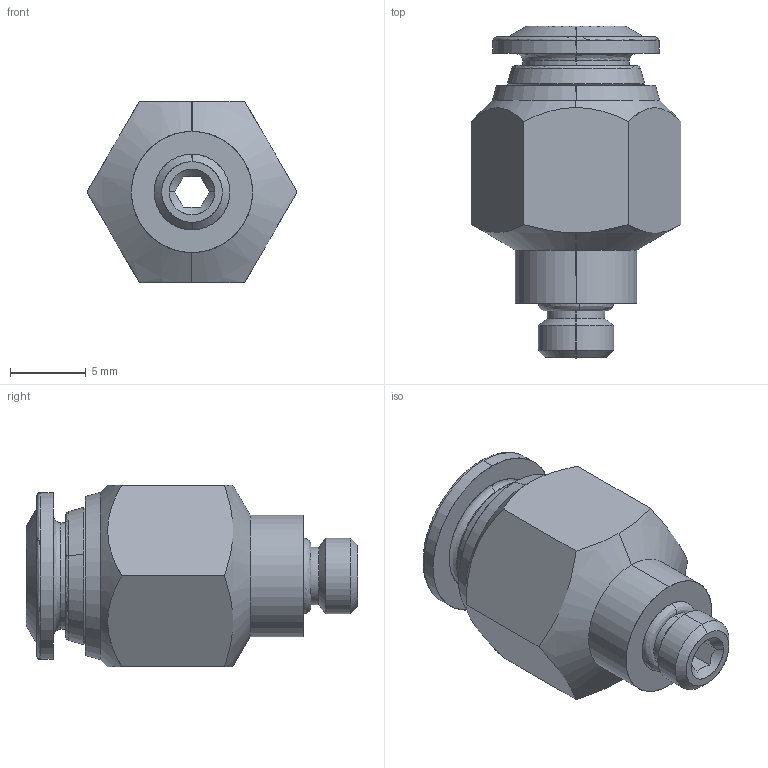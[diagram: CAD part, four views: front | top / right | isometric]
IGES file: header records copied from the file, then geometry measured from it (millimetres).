
Start section: SolidWorks IGES file using analytic representation for surfaces
Global section: file name: K:\Disegni Esecutivi\SERIE 57000\ASSIEMI_57000\57020\IGES e STEP new size\5702000018.IGS; native system: SolidWorks 2020; preprocessor: SolidWorks 2020; author: CAD13; date: 241018.111016; units: millimetre
Bounding box: 13.86 x 21.9 x 12 mm (x, y, z)
Surface area: 1237.6 mm2 (no closed solid volume)
Topology: 0 solids, 0 shells, 61 faces, 896 edges, 896 vertices
Faces by surface type: revolution 34, bspline 27
